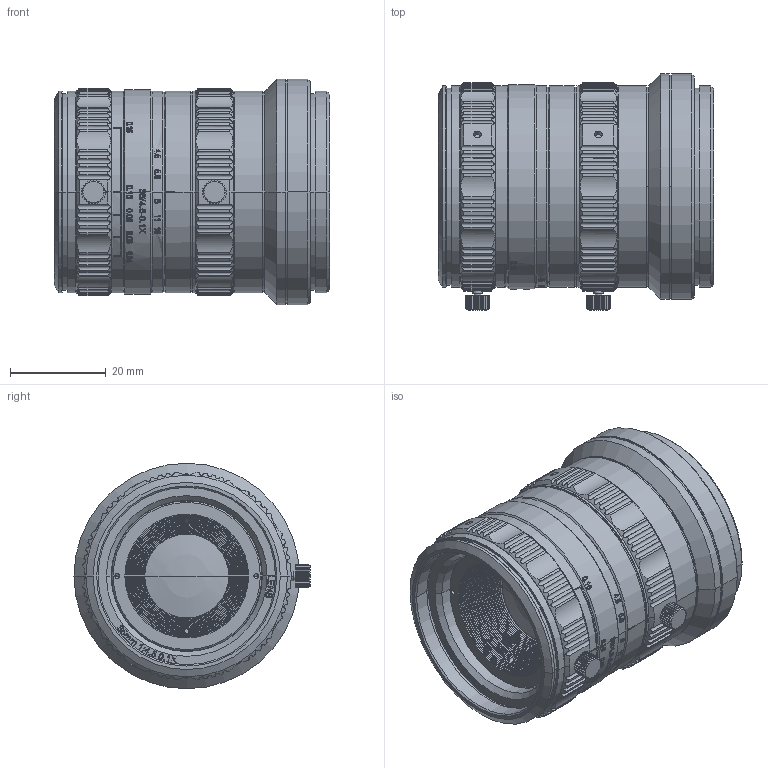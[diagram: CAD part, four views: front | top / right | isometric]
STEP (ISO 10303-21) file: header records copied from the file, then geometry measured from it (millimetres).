
FILE_DESCRIPTION((''),'2;1');
FILE_NAME('OPT-MCT35-4_5-0_1X-V1_0','2024-06-17T19:19:42',('admin'),(''),'CREO PARAMETRIC BY PTC INC, 2020354','CREO PARAMETRIC BY PTC INC, 2020354','');
FILE_SCHEMA(('AUTOMOTIVE_DESIGN { 1 0 10303 214 1 1 1 1 }'));
Products named in the file (1): OPT-MCT35-4_5-0_1X-V1_0
Bounding box: 57.34 x 49.2 x 47 mm (x, y, z)
Volume: 61644.2 mm3; surface area: 17065.4 mm2
Topology: 1 solids, 11 shells, 2117 faces, 5834 edges, 3895 vertices
Faces by surface type: cylinder 725, plane 584, bspline 473, extrusion 197, cone 122, torus 12, sphere 4
Entity records: 84797 total; most frequent: CARTESIAN_POINT 34796, ORIENTED_EDGE 11636, DIRECTION 8148, EDGE_CURVE 5818, VERTEX_POINT 3895, AXIS2_PLACEMENT_3D 2740, VECTOR 2668, LINE 2471
